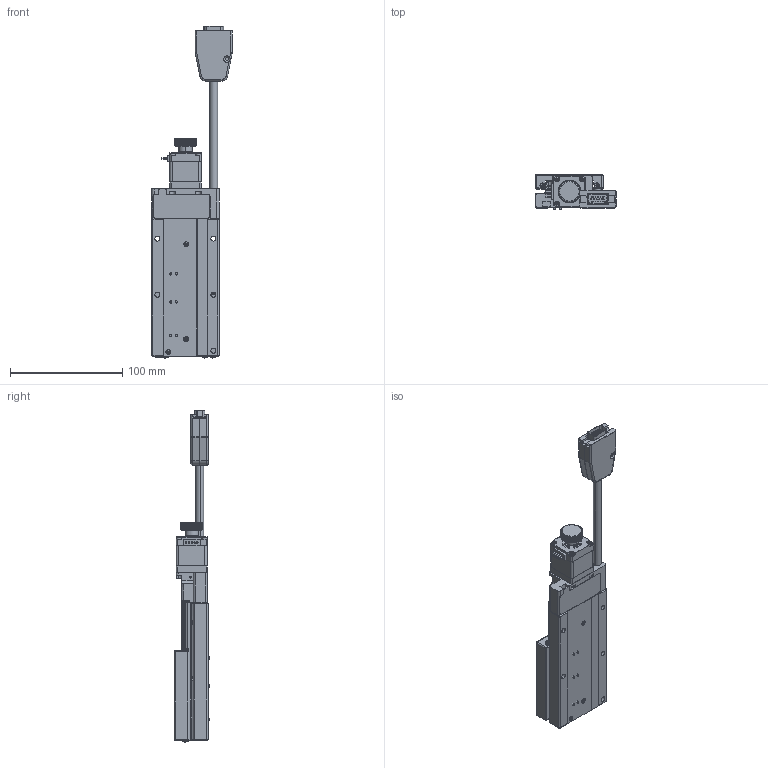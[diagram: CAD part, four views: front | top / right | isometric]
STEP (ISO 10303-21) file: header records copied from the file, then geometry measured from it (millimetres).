
FILE_DESCRIPTION (( 'STEP AP203' ), '1' );
FILE_NAME ('CXS6050(¼Ò½k¤Æ).STEP', '2017-08-07T09:38:52', ( '' ), ( '' ), 'SwSTEP 2.0', 'SolidWorks 2017', '' );
FILE_SCHEMA (( 'CONFIG_CONTROL_DESIGN' ));
Length unit declared in the file: millimetre
Products named in the file (4): Group1^CXS6050(模糊化); Group2^CXS6050(模糊化); CXS6050-01-00-1^CXS6050(模糊化); CXS6050(模糊化)
Assembly tree (3 placements, depth 2):
  CXS6050(模糊化)
    Group1^CXS6050(模糊化)
    Group2^CXS6050(模糊化)
    CXS6050-01-00-1^CXS6050(模糊化)
Bounding box: 71.71 x 31.43 x 296.1 mm (x, y, z)
Volume: 154240.8 mm3; surface area: 80991.7 mm2
Topology: 21 solids, 23 shells, 2842 faces, 7298 edges, 4570 vertices
Faces by surface type: plane 1440, cylinder 733, torus 268, cone 251, bspline 110, sphere 40
Entity records: 92565 total; most frequent: CARTESIAN_POINT 24405, ORIENTED_EDGE 14464, DIRECTION 13856, EDGE_CURVE 7232, AXIS2_PLACEMENT_3D 5027, VERTEX_POINT 4570, LINE 3802, VECTOR 3802
